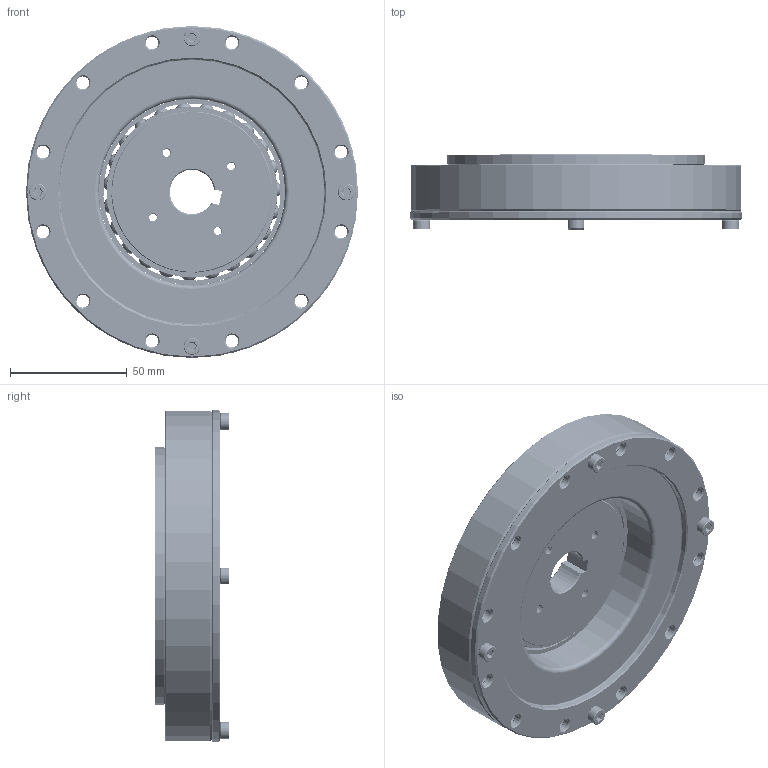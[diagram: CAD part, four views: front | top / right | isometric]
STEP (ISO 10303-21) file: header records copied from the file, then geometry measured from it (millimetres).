
FILE_DESCRIPTION(/* description */ (''),/* implementation_level */ '2;1');
FILE_NAME(/* name */ 'HBD32.stp',/* time_stamp */ '2023-02-20T14:54:58+08:00',/* author */ (''),/* organization */ (''),/* preprocessor_version */ 'ST-DEVELOPER v16',/* originating_system */ 'SIEMENS PLM Software NX 10.0',/* authorisation */ '');
FILE_SCHEMA (('CONFIG_CONTROL_DESIGN'));
Products named in the file (1): HBD32
Bounding box: 142 x 31.9 x 142 mm (x, y, z)
Volume: 248702.9 mm3; surface area: 156457.1 mm2
Topology: 35 solids, 39 shells, 904 faces, 2402 edges, 1568 vertices
Faces by surface type: plane 315, cylinder 239, cone 195, bspline 77, extrusion 48, sphere 23, torus 7
Full cylindrical faces by diameter (mm): 3.5 x1, 4 x44, 4.5 x4, 5.5 x38, 5.6 x1, 6 x1, 7.22 x4, 56 x1, 58.928 x1, 59.5 x2, 60.5 x3, 61.5 x1, 63.028 x2, 64.3 x1, 69 x1, 73 x1, 75.856 x2, 79.756 x2, 82.7 x1, 83.7 x1, 88 x3, 90 x1, 91 x1, 98 x1, 110 x3, 112 x2, 114 x2, 117.5 x1, 118 x1, 122 x3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
Entity records: 133861 total; most frequent: CARTESIAN_POINT 115699, ORIENTED_EDGE 3500, DIRECTION 3362, EDGE_CURVE 1750, AXIS2_PLACEMENT_3D 1347, VERTEX_POINT 1311, EDGE_LOOP 1244, ADVANCED_FACE 846
